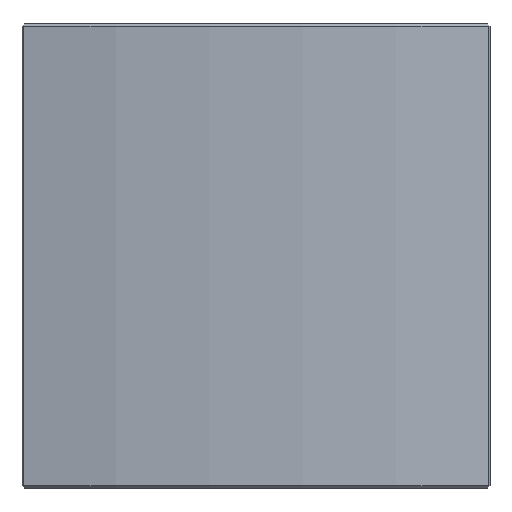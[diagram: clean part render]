
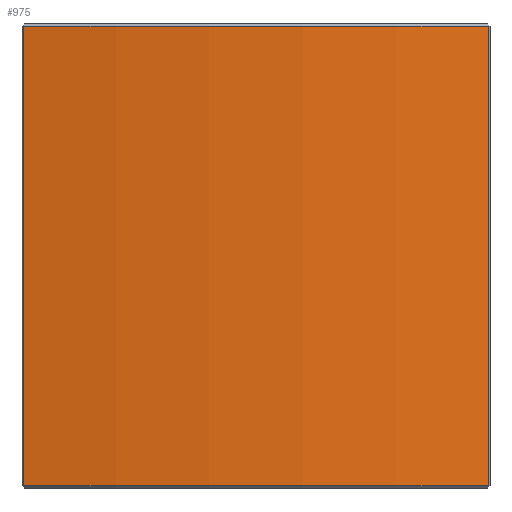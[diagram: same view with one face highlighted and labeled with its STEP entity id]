
A CAD part, left-side view. The second image highlights one B-rep face of the part: STEP entity #975.
In plain terms, the highlighted cylindrical face has radius 249.5 mm (diameter 499 mm), a partial arc.
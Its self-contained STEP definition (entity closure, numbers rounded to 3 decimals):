
#104=LINE('',#1656,#176);
#118=LINE('',#1699,#190);
#176=VECTOR('',#1371,10.);
#190=VECTOR('',#1401,10.);
#219=CYLINDRICAL_SURFACE('',#1117,249.5);
#286=FACE_OUTER_BOUND('',#352,.T.);
#352=EDGE_LOOP('',(#876,#877,#878,#879));
#408=CIRCLE('',#1105,249.5);
#411=CIRCLE('',#1111,249.5);
#466=VERTEX_POINT('',#1631);
#471=VERTEX_POINT('',#1647);
#478=VERTEX_POINT('',#1670);
#485=VERTEX_POINT('',#1692);
#594=EDGE_CURVE('',#471,#466,#104,.T.);
#607=EDGE_CURVE('',#466,#478,#408,.T.);
#613=EDGE_CURVE('',#478,#485,#118,.T.);
#615=EDGE_CURVE('',#485,#471,#411,.T.);
#876=ORIENTED_EDGE('',*,*,#594,.F.);
#877=ORIENTED_EDGE('',*,*,#615,.F.);
#878=ORIENTED_EDGE('',*,*,#613,.F.);
#879=ORIENTED_EDGE('',*,*,#607,.F.);
#975=ADVANCED_FACE('',(#286),#219,.T.);
#1105=AXIS2_PLACEMENT_3D('',#1686,#1390,#1391);
#1111=AXIS2_PLACEMENT_3D('',#1702,#1406,#1407);
#1117=AXIS2_PLACEMENT_3D('',#1729,#1423,#1424);
#1371=DIRECTION('',(0.,0.,-1.));
#1390=DIRECTION('center_axis',(0.,0.,-1.));
#1391=DIRECTION('ref_axis',(-0.979,0.202,0.));
#1401=DIRECTION('',(0.,0.,1.));
#1406=DIRECTION('center_axis',(0.,0.,1.));
#1407=DIRECTION('ref_axis',(-0.979,0.202,0.));
#1423=DIRECTION('center_axis',(0.,0.,1.));
#1424=DIRECTION('ref_axis',(-0.979,0.202,0.));
#1631=CARTESIAN_POINT('',(0.065,-50.016,0.5));
#1647=CARTESIAN_POINT('',(0.065,-50.016,99.5));
#1656=CARTESIAN_POINT('',(0.065,-50.016,0.));
#1670=CARTESIAN_POINT('',(0.065,50.016,0.5));
#1686=CARTESIAN_POINT('Origin',(244.5,0.,0.5));
#1692=CARTESIAN_POINT('',(0.065,50.016,99.5));
#1699=CARTESIAN_POINT('',(0.065,50.016,0.));
#1702=CARTESIAN_POINT('Origin',(244.5,0.,99.5));
#1729=CARTESIAN_POINT('Origin',(244.5,0.,0.));
